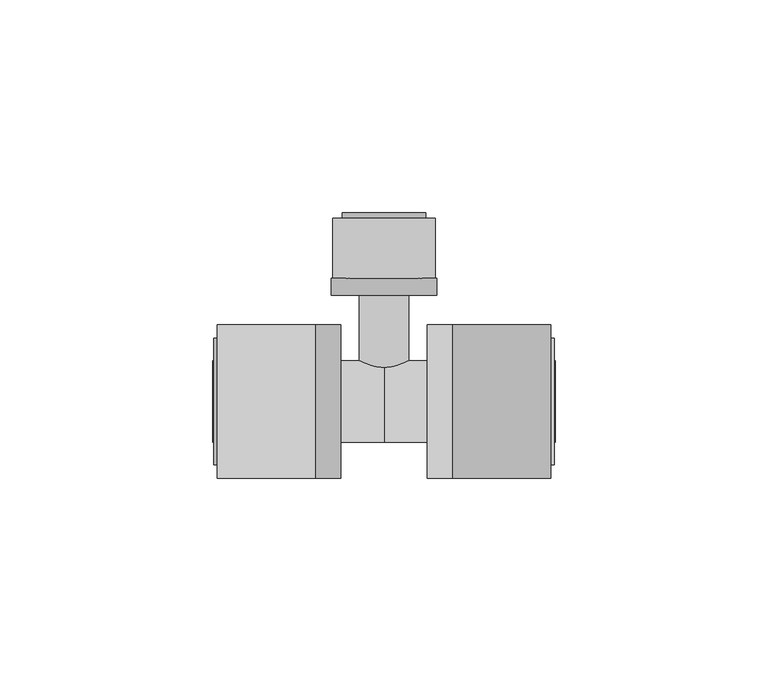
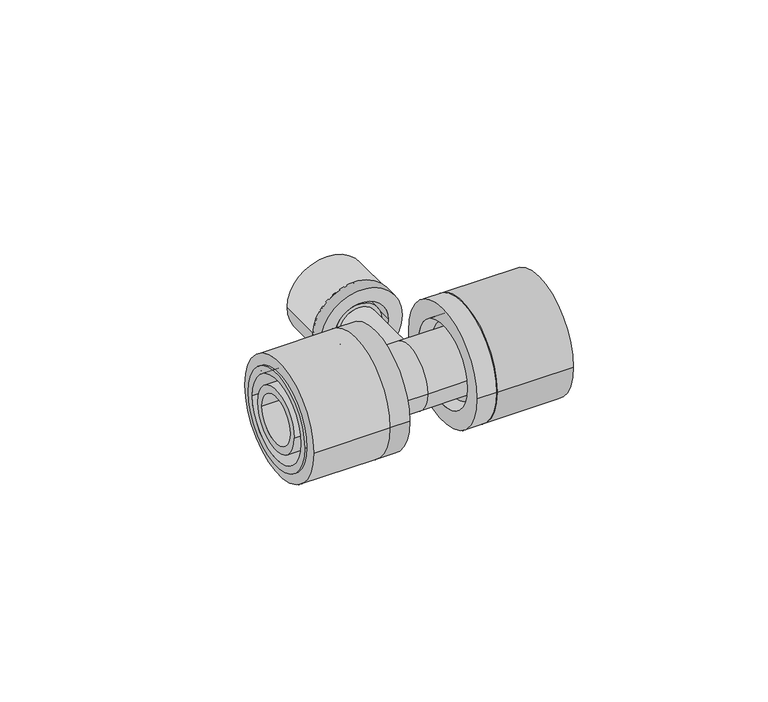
"""IFC4 building model written with IfcOpenShell, lengths in millimetres: pipe fitting geometry, FASTLOC_T-piece_LX : FSL T-Piece LX CZ."""

from ifc_helpers import new_model, si_unit, point, frame, origin, origin_2d, place, context, project, spatial, polyline, circle_curve, trimmed, segment, composite_curve, outline, extrude, source, transform, mapped, element, save
from ifc_brep_helpers import plane_surface, cylinder_surface, revolved_surface, advanced_brep


def pipe_fitting_e97a97d3(model_context):
    return source(origin(), model_context, "Body", "SolidModel", [
        extrude(outline(composite_curve([segment(trimmed(circle_curve(origin_2d(), 18.0), [point((-18.0, 0.0))], [point((18.0, 0.0))], False, "CARTESIAN"), True, "CONTINUOUS"), segment(trimmed(circle_curve(origin_2d(), 18.0), [point((18.0, 0.0))], [point((-18.0, 0.0))], False, "CARTESIAN"), True, "CONTINUOUS")], self_intersect=False), holes=[composite_curve([segment(trimmed(circle_curve(origin_2d(), 13.5), [point((-13.5, 0.0))], [point((13.5, 0.0))], True, "CARTESIAN"), True, "CONTINUOUS"), segment(trimmed(circle_curve(origin_2d(), 13.5), [point((13.5, 0.0))], [point((-13.5, 0.0))], True, "CARTESIAN"), True, "CONTINUOUS")], self_intersect=False)]), frame((16.2, 0.0, 0.0), z_axis=(1.0, 0.0, 0.0), x_axis=(0.0, 1.0, 0.0)), (0.0, 0.0, 1.0), 23.0),
        advanced_brep(
        [(16.2, 18.0, 0.0), (16.2, -18.0, 0.0), (10.2, -18.0, 0.0), (10.2, 18.0, 0.0), (40.0, 14.85, 0.0), (40.0, -14.85, 0.0), (16.2, -14.85, 0.0), (16.2, 14.85, 0.0), (10.2, 12.65, 0.0), (10.2, -12.65, 0.0), (40.0, -12.65, 0.0), (40.0, 12.65, 0.0)],
        [
            (0, 1, circle_curve(frame((16.2, 0.0, 0.0), z_axis=(-1.0, 0.0, 0.0), x_axis=(0.0, -1.0, 0.0)), 18.0)),
            (1, 2),
            (2, 3, circle_curve(frame((10.2, 0.0, 0.0), z_axis=(1.0, 0.0, 0.0), x_axis=(0.0, -1.0, 0.0)), 18.0)),
            (3, 0),
            (4, 5, circle_curve(frame((40.0, 0.0, 0.0), z_axis=(-1.0, 0.0, 0.0), x_axis=(0.0, -1.0, 0.0)), 14.85)),
            (5, 6),
            (6, 7, circle_curve(frame((16.2, 0.0, 0.0), z_axis=(1.0, 0.0, 0.0), x_axis=(0.0, -1.0, 0.0)), 14.85)),
            (7, 4),
            (8, 9, circle_curve(frame((10.2, 0.0, 0.0), z_axis=(-1.0, 0.0, 0.0), x_axis=(0.0, -1.0, 0.0)), 12.65)),
            (9, 10),
            (10, 11, circle_curve(frame((40.0, 0.0, 0.0), z_axis=(1.0, 0.0, 0.0), x_axis=(0.0, -1.0, 0.0)), 12.65)),
            (11, 8),
            (1, 0, circle_curve(frame((16.2, 0.0, 0.0), z_axis=(-1.0, 0.0, 0.0), x_axis=(0.0, 1.0, 0.0)), 18.0)),
            (3, 2, circle_curve(frame((10.2, 0.0, 0.0), z_axis=(1.0, 0.0, 0.0), x_axis=(0.0, 1.0, 0.0)), 18.0)),
            (6, 7, circle_curve(frame((16.2, 0.0, 0.0), z_axis=(-1.0, 0.0, 0.0), x_axis=(0.0, 1.0, 0.0)), 14.85)),
            (5, 4, circle_curve(frame((40.0, 0.0, 0.0), z_axis=(-1.0, 0.0, 0.0), x_axis=(0.0, 1.0, 0.0)), 14.85)),
            (10, 11, circle_curve(frame((40.0, 0.0, 0.0), z_axis=(-1.0, 0.0, 0.0), x_axis=(0.0, 1.0, 0.0)), 12.65)),
            (9, 8, circle_curve(frame((10.2, 0.0, 0.0), z_axis=(-1.0, 0.0, 0.0), x_axis=(0.0, 1.0, 0.0)), 12.65)),
        ],
        [
            cylinder_surface(frame((10.2, 0.0, 0.0), z_axis=(1.0, 0.0, 0.0), x_axis=(0.0, -1.0, 0.0)), 18.0),
            cylinder_surface(frame((10.2, 0.0, 0.0), z_axis=(1.0, 0.0, 0.0), x_axis=(0.0, -1.0, 0.0)), 14.85),
            revolved_surface(polyline([(40.0, -12.65, 0.0), (10.2, -12.65, 0.0)]), (10.2, 0.0, 0.0), (1.0, 0.0, 0.0)),
            cylinder_surface(frame((10.2, 0.0, 0.0), z_axis=(1.0, 0.0, 0.0), x_axis=(0.0, 1.0, 0.0)), 18.0),
            plane_surface(frame((16.2, 0.0, 0.0), z_axis=(1.0, 0.0, 0.0), x_axis=(0.0, 1.0, 0.0))),
            cylinder_surface(frame((10.2, 0.0, 0.0), z_axis=(1.0, 0.0, 0.0), x_axis=(0.0, 1.0, 0.0)), 14.85),
            plane_surface(frame((40.0, 0.0, 0.0), z_axis=(1.0, 0.0, 0.0), x_axis=(0.0, 1.0, 0.0))),
            revolved_surface(polyline([(40.0, 12.65, 0.0), (10.2, 12.65, 0.0)]), (10.2, 0.0, 0.0), (1.0, 0.0, 0.0)),
            plane_surface(frame((10.2, 0.0, 0.0), z_axis=(-1.0, 0.0, 0.0), x_axis=(0.0, 1.0, 0.0))),
        ],
        [
            (0, [[1, 2, 3, 4]]),
            (1, [[5, 6, 7, 8]]),
            (2, [[9, 10, 11, 12]]),
            (3, [[13, -4, 14, -2]]),
            (4, [[-13, -1], [15, -7]]),
            (5, [[16, -8, -15, -6]]),
            (6, [[-16, -5], [17, -11]]),
            (7, [[18, -12, -17, -10]]),
            (8, [[-14, -3], [-18, -9]]),
        ],
    ),
        extrude(outline(composite_curve([segment(trimmed(circle_curve(origin_2d(), 18.0), [point((18.0, 0.0))], [point((-18.0, 0.0))], False, "CARTESIAN"), True, "CONTINUOUS"), segment(trimmed(circle_curve(origin_2d(), 18.0), [point((-18.0, 0.0))], [point((18.0, 0.0))], False, "CARTESIAN"), True, "CONTINUOUS")], self_intersect=False), holes=[composite_curve([segment(trimmed(circle_curve(origin_2d(), 13.5), [point((13.5, 0.0))], [point((-13.5, 0.0))], True, "CARTESIAN"), True, "CONTINUOUS"), segment(trimmed(circle_curve(origin_2d(), 13.5), [point((-13.5, 0.0))], [point((13.5, 0.0))], True, "CARTESIAN"), True, "CONTINUOUS")], self_intersect=False)]), frame((-39.2, 0.0, 0.0), z_axis=(1.0, 0.0, 0.0), x_axis=(0.0, 1.0, 0.0)), (0.0, 0.0, 1.0), 23.0),
        advanced_brep(
        [(-16.2, -18.0, 0.0), (-16.2, 18.0, 0.0), (-10.2, 18.0, 0.0), (-10.2, -18.0, 0.0), (-40.0, -14.85, 0.0), (-40.0, 14.85, 0.0), (-16.2, 14.85, 0.0), (-16.2, -14.85, 0.0), (-10.2, -12.65, 0.0), (-10.2, 12.65, 0.0), (-40.0, 12.65, 0.0), (-40.0, -12.65, 0.0)],
        [
            (0, 1, circle_curve(frame((-16.2, 0.0, 0.0), z_axis=(1.0, 0.0, 0.0), x_axis=(0.0, 1.0, 0.0)), 18.0)),
            (1, 2),
            (2, 3, circle_curve(frame((-10.2, 0.0, 0.0), z_axis=(-1.0, 0.0, 0.0), x_axis=(0.0, 1.0, 0.0)), 18.0)),
            (3, 0),
            (4, 5, circle_curve(frame((-40.0, 0.0, 0.0), z_axis=(1.0, 0.0, 0.0), x_axis=(0.0, 1.0, 0.0)), 14.85)),
            (5, 6),
            (6, 7, circle_curve(frame((-16.2, 0.0, 0.0), z_axis=(-1.0, 0.0, 0.0), x_axis=(0.0, 1.0, 0.0)), 14.85)),
            (7, 4),
            (8, 9, circle_curve(frame((-10.2, 0.0, 0.0), z_axis=(1.0, 0.0, 0.0), x_axis=(0.0, 1.0, 0.0)), 12.65)),
            (9, 10),
            (10, 11, circle_curve(frame((-40.0, 0.0, 0.0), z_axis=(-1.0, 0.0, 0.0), x_axis=(0.0, 1.0, 0.0)), 12.65)),
            (11, 8),
            (1, 0, circle_curve(frame((-16.2, 0.0, 0.0), z_axis=(1.0, 0.0, 0.0), x_axis=(0.0, -1.0, 0.0)), 18.0)),
            (3, 2, circle_curve(frame((-10.2, 0.0, 0.0), z_axis=(-1.0, 0.0, 0.0), x_axis=(0.0, -1.0, 0.0)), 18.0)),
            (6, 7, circle_curve(frame((-16.2, 0.0, 0.0), z_axis=(1.0, 0.0, 0.0), x_axis=(0.0, -1.0, 0.0)), 14.85)),
            (5, 4, circle_curve(frame((-40.0, 0.0, 0.0), z_axis=(1.0, 0.0, 0.0), x_axis=(0.0, -1.0, 0.0)), 14.85)),
            (10, 11, circle_curve(frame((-40.0, 0.0, 0.0), z_axis=(1.0, 0.0, 0.0), x_axis=(0.0, -1.0, 0.0)), 12.65)),
            (9, 8, circle_curve(frame((-10.2, 0.0, 0.0), z_axis=(1.0, 0.0, 0.0), x_axis=(0.0, -1.0, 0.0)), 12.65)),
        ],
        [
            cylinder_surface(frame((-10.2, 0.0, 0.0), z_axis=(-1.0, 0.0, 0.0), x_axis=(0.0, 1.0, 0.0)), 18.0),
            cylinder_surface(frame((-10.2, 0.0, 0.0), z_axis=(-1.0, 0.0, 0.0), x_axis=(0.0, 1.0, 0.0)), 14.85),
            revolved_surface(polyline([(-40.0, 12.65, 0.0), (-10.2, 12.65, 0.0)]), (-10.2, 0.0, 0.0), (-1.0, 0.0, 0.0)),
            cylinder_surface(frame((-10.2, 0.0, 0.0), z_axis=(-1.0, 0.0, 0.0), x_axis=(0.0, -1.0, 0.0)), 18.0),
            plane_surface(frame((-16.2, 0.0, 0.0), z_axis=(-1.0, 0.0, 0.0), x_axis=(0.0, -1.0, 0.0))),
            cylinder_surface(frame((-10.2, 0.0, 0.0), z_axis=(-1.0, 0.0, 0.0), x_axis=(0.0, -1.0, 0.0)), 14.85),
            plane_surface(frame((-40.0, 0.0, 0.0), z_axis=(-1.0, 0.0, 0.0), x_axis=(0.0, -1.0, 0.0))),
            revolved_surface(polyline([(-40.0, -12.65, 0.0), (-10.2, -12.65, 0.0)]), (-10.2, 0.0, 0.0), (-1.0, 0.0, 0.0)),
            plane_surface(frame((-10.2, 0.0, 0.0), z_axis=(1.0, 0.0, 0.0), x_axis=(0.0, -1.0, 0.0))),
        ],
        [
            (0, [[1, 2, 3, 4]]),
            (1, [[5, 6, 7, 8]]),
            (2, [[9, 10, 11, 12]]),
            (3, [[13, -4, 14, -2]]),
            (4, [[-13, -1], [15, -7]]),
            (5, [[16, -8, -15, -6]]),
            (6, [[-16, -5], [17, -11]]),
            (7, [[18, -12, -17, -10]]),
            (8, [[-14, -3], [-18, -9]]),
        ],
    ),
        extrude(outline(composite_curve([segment(trimmed(circle_curve(origin_2d(), 12.0), [point((0.0, 12.0))], [point((0.0, -12.0))], False, "CARTESIAN"), True, "CONTINUOUS"), segment(trimmed(circle_curve(origin_2d(), 12.0), [point((0.0, -12.0))], [point((0.0, 12.0))], False, "CARTESIAN"), True, "CONTINUOUS")], self_intersect=False), holes=[composite_curve([segment(trimmed(circle_curve(origin_2d(), 8.85), [point((0.0, 8.85))], [point((0.0, -8.85))], True, "CARTESIAN"), True, "CONTINUOUS"), segment(trimmed(circle_curve(origin_2d(), 8.85), [point((0.0, -8.85))], [point((0.0, 8.85))], True, "CARTESIAN"), True, "CONTINUOUS")], self_intersect=False)]), frame((0.0, 29.0, 0.0), z_axis=(0.0, 1.0, 0.0), x_axis=(0.0, 0.0, 1.0)), (0.0, 0.0, 1.0), 14.0),
        advanced_brep(
        [(-12.35, 29.0, 0.0), (12.35, 29.0, 0.0), (12.35, 25.0, 0.0), (-12.35, 25.0, 0.0), (-9.85, 44.3, 0.0), (9.85, 44.3, 0.0), (9.85, 29.0, 0.0), (-9.85, 29.0, 0.0), (-8.15, 25.0, 0.0), (8.15, 25.0, 0.0), (8.15, 44.3, 0.0), (-8.15, 44.3, 0.0)],
        [
            (0, 1, circle_curve(frame((0.0, 29.0, 0.0), z_axis=(0.0, -1.0, 0.0), x_axis=(1.0, 0.0, 0.0)), 12.35)),
            (1, 2),
            (2, 3, circle_curve(frame((0.0, 25.0, 0.0), z_axis=(0.0, 1.0, 0.0), x_axis=(1.0, 0.0, 0.0)), 12.35)),
            (3, 0),
            (4, 5, circle_curve(frame((0.0, 44.3, 0.0), z_axis=(0.0, -1.0, 0.0), x_axis=(1.0, 0.0, 0.0)), 9.85)),
            (5, 6),
            (6, 7, circle_curve(frame((0.0, 29.0, 0.0), z_axis=(0.0, 1.0, 0.0), x_axis=(1.0, 0.0, 0.0)), 9.85)),
            (7, 4),
            (8, 9, circle_curve(frame((0.0, 25.0, 0.0), z_axis=(0.0, -1.0, 0.0), x_axis=(1.0, 0.0, 0.0)), 8.15)),
            (9, 10),
            (10, 11, circle_curve(frame((0.0, 44.3, 0.0), z_axis=(0.0, 1.0, 0.0), x_axis=(1.0, 0.0, 0.0)), 8.15)),
            (11, 8),
            (1, 0, circle_curve(frame((0.0, 29.0, 0.0), z_axis=(0.0, -1.0, 0.0), x_axis=(-1.0, 0.0, 0.0)), 12.35)),
            (3, 2, circle_curve(frame((0.0, 25.0, 0.0), z_axis=(0.0, 1.0, 0.0), x_axis=(-1.0, 0.0, 0.0)), 12.35)),
            (6, 7, circle_curve(frame((0.0, 29.0, 0.0), z_axis=(0.0, -1.0, 0.0), x_axis=(-1.0, 0.0, 0.0)), 9.85)),
            (5, 4, circle_curve(frame((0.0, 44.3, 0.0), z_axis=(0.0, -1.0, 0.0), x_axis=(-1.0, 0.0, 0.0)), 9.85)),
            (10, 11, circle_curve(frame((0.0, 44.3, 0.0), z_axis=(0.0, -1.0, 0.0), x_axis=(-1.0, 0.0, 0.0)), 8.15)),
            (9, 8, circle_curve(frame((0.0, 25.0, 0.0), z_axis=(0.0, -1.0, 0.0), x_axis=(-1.0, 0.0, 0.0)), 8.15)),
        ],
        [
            cylinder_surface(frame((0.0, 25.0, 0.0), z_axis=(0.0, 1.0, 0.0), x_axis=(1.0, 0.0, 0.0)), 12.35),
            cylinder_surface(frame((0.0, 25.0, 0.0), z_axis=(0.0, 1.0, 0.0), x_axis=(1.0, 0.0, 0.0)), 9.85),
            revolved_surface(polyline([(8.15, 44.3, 0.0), (8.15, 25.0, 0.0)]), (0.0, 25.0, 0.0), (0.0, 1.0, 0.0)),
            cylinder_surface(frame((0.0, 25.0, 0.0), z_axis=(0.0, 1.0, 0.0), x_axis=(-1.0, 0.0, 0.0)), 12.35),
            plane_surface(frame((0.0, 29.0, 0.0), z_axis=(0.0, 1.0, 0.0), x_axis=(-1.0, 0.0, 0.0))),
            cylinder_surface(frame((0.0, 25.0, 0.0), z_axis=(0.0, 1.0, 0.0), x_axis=(-1.0, 0.0, 0.0)), 9.85),
            plane_surface(frame((0.0, 44.3, 0.0), z_axis=(0.0, 1.0, 0.0), x_axis=(-1.0, 0.0, 0.0))),
            revolved_surface(polyline([(-8.15, 44.3, 0.0), (-8.15, 25.0, 0.0)]), (0.0, 25.0, 0.0), (0.0, 1.0, 0.0)),
            plane_surface(frame((0.0, 25.0, 0.0), z_axis=(0.0, -1.0, 0.0), x_axis=(-1.0, 0.0, 0.0))),
        ],
        [
            (0, [[1, 2, 3, 4]]),
            (1, [[5, 6, 7, 8]]),
            (2, [[9, 10, 11, 12]]),
            (3, [[13, -4, 14, -2]]),
            (4, [[-13, -1], [15, -7]]),
            (5, [[16, -8, -15, -6]]),
            (6, [[-16, -5], [17, -11]]),
            (7, [[18, -12, -17, -10]]),
            (8, [[-14, -3], [-18, -9]]),
        ],
    ),
        advanced_brep(
        [(0.0, 9.6, 0.0), (0.0, -9.6, 0.0), (-13.4, -9.6, 0.0), (-13.4, 9.6, 0.0), (13.4, 9.6, 0.0), (13.4, -9.6, 0.0), (16.2, 11.1, 0.0), (16.2, -11.1, 0.0), (13.4, -11.1, 0.0), (13.4, 11.1, 0.0), (40.2, 9.6, 0.0), (40.2, -9.6, 0.0), (16.2, -9.6, 0.0), (16.2, 9.6, 0.0), (-16.2, 9.6, 0.0), (-16.2, -9.6, 0.0), (-40.2, -9.6, 0.0), (-40.2, 9.6, 0.0), (-13.4, 11.1, 0.0), (-13.4, -11.1, 0.0), (-16.2, -11.1, 0.0), (-16.2, 11.1, 0.0), (40.2, -7.35, 0.0), (40.2, 7.35, 0.0), (-40.2, 7.35, 0.0), (-40.2, -7.35, 0.0), (0.0, 7.35, 0.0), (0.0, -7.35, 0.0)],
        [
            (0, 1, circle_curve(frame((0.0, 0.0, 0.0), z_axis=(-1.0, 0.0, 0.0), x_axis=(0.0, -1.0, 0.0)), 9.6)),
            (1, 2),
            (2, 3, circle_curve(frame((-13.4, 0.0, 0.0), z_axis=(1.0, 0.0, 0.0), x_axis=(0.0, -1.0, 0.0)), 9.6)),
            (3, 0),
            (4, 5, circle_curve(frame((13.4, 0.0, 0.0), z_axis=(-1.0, 0.0, 0.0), x_axis=(0.0, -1.0, 0.0)), 9.6)),
            (5, 1),
            (0, 4),
            (6, 7, circle_curve(frame((16.2, 0.0, 0.0), z_axis=(-1.0, 0.0, 0.0), x_axis=(0.0, -1.0, 0.0)), 11.1)),
            (7, 8),
            (8, 9, circle_curve(frame((13.4, 0.0, 0.0), z_axis=(1.0, 0.0, 0.0), x_axis=(0.0, -1.0, 0.0)), 11.1)),
            (9, 6),
            (10, 11, circle_curve(frame((40.2, 0.0, 0.0), z_axis=(-1.0, 0.0, 0.0), x_axis=(0.0, -1.0, 0.0)), 9.6)),
            (11, 12),
            (12, 13, circle_curve(frame((16.2, 0.0, 0.0), z_axis=(1.0, 0.0, 0.0), x_axis=(0.0, -1.0, 0.0)), 9.6)),
            (13, 10),
            (14, 15, circle_curve(frame((-16.2, 0.0, 0.0), z_axis=(-1.0, 0.0, 0.0), x_axis=(0.0, -1.0, 0.0)), 9.6)),
            (15, 16),
            (16, 17, circle_curve(frame((-40.2, 0.0, 0.0), z_axis=(1.0, 0.0, 0.0), x_axis=(0.0, -1.0, 0.0)), 9.6)),
            (17, 14),
            (18, 19, circle_curve(frame((-13.4, 0.0, 0.0), z_axis=(-1.0, 0.0, 0.0), x_axis=(0.0, -1.0, 0.0)), 11.1)),
            (19, 20),
            (20, 21, circle_curve(frame((-16.2, 0.0, 0.0), z_axis=(1.0, 0.0, 0.0), x_axis=(0.0, -1.0, 0.0)), 11.1)),
            (21, 18),
            (18, 19, circle_curve(frame((-13.4, 0.0, 0.0), z_axis=(1.0, 0.0, 0.0), x_axis=(0.0, 1.0, 0.0)), 11.1)),
            (2, 3, circle_curve(frame((-13.4, 0.0, 0.0), z_axis=(-1.0, 0.0, 0.0), x_axis=(0.0, 1.0, 0.0)), 9.6)),
            (1, 0, circle_curve(frame((0.0, 0.0, 0.0), z_axis=(-1.0, 0.0, 0.0), x_axis=(0.0, 1.0, 0.0)), 9.6)),
            (5, 4, circle_curve(frame((13.4, 0.0, 0.0), z_axis=(-1.0, 0.0, 0.0), x_axis=(0.0, 1.0, 0.0)), 9.6)),
            (8, 9, circle_curve(frame((13.4, 0.0, 0.0), z_axis=(-1.0, 0.0, 0.0), x_axis=(0.0, 1.0, 0.0)), 11.1)),
            (7, 6, circle_curve(frame((16.2, 0.0, 0.0), z_axis=(-1.0, 0.0, 0.0), x_axis=(0.0, 1.0, 0.0)), 11.1)),
            (12, 13, circle_curve(frame((16.2, 0.0, 0.0), z_axis=(-1.0, 0.0, 0.0), x_axis=(0.0, 1.0, 0.0)), 9.6)),
            (11, 10, circle_curve(frame((40.2, 0.0, 0.0), z_axis=(-1.0, 0.0, 0.0), x_axis=(0.0, 1.0, 0.0)), 9.6)),
            (22, 23, circle_curve(frame((40.2, 0.0, 0.0), z_axis=(-1.0, 0.0, 0.0), x_axis=(0.0, 1.0, 0.0)), 7.35)),
            (23, 22, circle_curve(frame((40.2, 0.0, 0.0), z_axis=(-1.0, 0.0, 0.0), x_axis=(0.0, -1.0, 0.0)), 7.35)),
            (16, 17, circle_curve(frame((-40.2, 0.0, 0.0), z_axis=(-1.0, 0.0, 0.0), x_axis=(0.0, 1.0, 0.0)), 9.6)),
            (24, 25, circle_curve(frame((-40.2, 0.0, 0.0), z_axis=(1.0, 0.0, 0.0), x_axis=(0.0, 1.0, 0.0)), 7.35)),
            (25, 24, circle_curve(frame((-40.2, 0.0, 0.0), z_axis=(1.0, 0.0, 0.0), x_axis=(0.0, -1.0, 0.0)), 7.35)),
            (15, 14, circle_curve(frame((-16.2, 0.0, 0.0), z_axis=(-1.0, 0.0, 0.0), x_axis=(0.0, 1.0, 0.0)), 9.6)),
            (20, 21, circle_curve(frame((-16.2, 0.0, 0.0), z_axis=(-1.0, 0.0, 0.0), x_axis=(0.0, 1.0, 0.0)), 11.1)),
            (26, 27, circle_curve(frame((0.0, 0.0, 0.0), z_axis=(-1.0, 0.0, 0.0), x_axis=(0.0, -1.0, 0.0)), 7.35)),
            (27, 22),
            (23, 26),
            (25, 27),
            (26, 24),
            (27, 26, circle_curve(frame((0.0, 0.0, 0.0), z_axis=(-1.0, 0.0, 0.0), x_axis=(0.0, 1.0, 0.0)), 7.35)),
        ],
        [
            cylinder_surface(frame((0.0, 0.0, 0.0), z_axis=(1.0, 0.0, 0.0), x_axis=(0.0, -1.0, 0.0)), 9.6),
            cylinder_surface(frame((0.0, 0.0, 0.0), z_axis=(1.0, 0.0, 0.0), x_axis=(0.0, -1.0, 0.0)), 11.1),
            plane_surface(frame((-13.4, 0.0, 0.0), z_axis=(1.0, 0.0, 0.0), x_axis=(0.0, 1.0, 0.0))),
            cylinder_surface(frame((0.0, 0.0, 0.0), z_axis=(1.0, 0.0, 0.0), x_axis=(0.0, 1.0, 0.0)), 9.6),
            plane_surface(frame((13.4, 0.0, 0.0), z_axis=(-1.0, 0.0, 0.0), x_axis=(0.0, 1.0, 0.0))),
            cylinder_surface(frame((0.0, 0.0, 0.0), z_axis=(1.0, 0.0, 0.0), x_axis=(0.0, 1.0, 0.0)), 11.1),
            plane_surface(frame((16.2, 0.0, 0.0), z_axis=(1.0, 0.0, 0.0), x_axis=(0.0, 1.0, 0.0))),
            plane_surface(frame((40.2, 0.0, 0.0), z_axis=(1.0, 0.0, 0.0), x_axis=(0.0, 1.0, 0.0))),
            plane_surface(frame((-40.2, 0.0, 0.0), z_axis=(-1.0, 0.0, 0.0), x_axis=(0.0, 1.0, 0.0))),
            plane_surface(frame((-16.2, 0.0, 0.0), z_axis=(-1.0, 0.0, 0.0), x_axis=(0.0, 1.0, 0.0))),
            revolved_surface(polyline([(40.2, -7.35, 0.0), (0.0, -7.35, 0.0)]), (0.0, 0.0, 0.0), (1.0, 0.0, 0.0)),
            revolved_surface(polyline([(0.0, -7.35, 0.0), (-40.2, -7.35, 0.0)]), (0.0, 0.0, 0.0), (1.0, 0.0, 0.0)),
            revolved_surface(polyline([(40.2, 7.35, 0.0), (0.0, 7.35, 0.0)]), (0.0, 0.0, 0.0), (1.0, 0.0, 0.0)),
            revolved_surface(polyline([(0.0, 7.35, 0.0), (-40.2, 7.35, 0.0)]), (0.0, 0.0, 0.0), (1.0, 0.0, 0.0)),
        ],
        [
            (0, [[1, 2, 3, 4]]),
            (0, [[5, 6, -1, 7]]),
            (1, [[8, 9, 10, 11]]),
            (0, [[12, 13, 14, 15]]),
            (0, [[16, 17, 18, 19]]),
            (1, [[20, 21, 22, 23]]),
            (2, [[24, -20], [25, -3]]),
            (3, [[26, -4, -25, -2]]),
            (3, [[27, -7, -26, -6]]),
            (4, [[28, -10], [-27, -5]]),
            (5, [[29, -11, -28, -9]]),
            (6, [[-29, -8], [30, -14]]),
            (3, [[31, -15, -30, -13]]),
            (7, [[-31, -12], [32, 33]]),
            (8, [[34, -18], [35, 36]]),
            (3, [[37, -19, -34, -17]]),
            (9, [[38, -22], [-37, -16]]),
            (5, [[-24, -23, -38, -21]]),
            (10, [[39, 40, -33, 41]]),
            (11, [[-36, 42, -39, 43]]),
            (12, [[44, -41, -32, -40]]),
            (13, [[-35, -43, -44, -42]]),
        ],
    ),
        advanced_brep(
        [(3.95, 44.0, 0.0), (-3.95, 44.0, 0.0), (-3.95, 0.0, 0.0), (3.95, 0.0, 0.0), (5.8, 0.0, 0.0), (-5.8, 0.0, 0.0), (-5.8, 26.29, 0.0), (5.8, 26.29, 0.0), (6.9, 26.29, 0.0), (-6.9, 26.29, 0.0), (-6.9, 29.0, 0.0), (6.9, 29.0, 0.0), (5.8, 29.0, 0.0), (-5.8, 29.0, 0.0), (-5.8, 44.0, 0.0), (5.8, 44.0, 0.0)],
        [
            (0, 1, circle_curve(frame((0.0, 44.0, 0.0), z_axis=(0.0, 1.0, 0.0), x_axis=(-1.0, 0.0, 0.0)), 3.95)),
            (1, 2),
            (2, 3, circle_curve(frame((0.0, 0.0, 0.0), z_axis=(0.0, -1.0, 0.0), x_axis=(-1.0, 0.0, 0.0)), 3.95)),
            (3, 0),
            (4, 5, circle_curve(frame((0.0, 0.0, 0.0), z_axis=(0.0, 1.0, 0.0), x_axis=(-1.0, 0.0, 0.0)), 5.8)),
            (5, 6),
            (6, 7, circle_curve(frame((0.0, 26.29, 0.0), z_axis=(0.0, -1.0, 0.0), x_axis=(-1.0, 0.0, 0.0)), 5.8)),
            (7, 4),
            (8, 9, circle_curve(frame((0.0, 26.29, 0.0), z_axis=(0.0, 1.0, 0.0), x_axis=(-1.0, 0.0, 0.0)), 6.9)),
            (9, 10),
            (10, 11, circle_curve(frame((0.0, 29.0, 0.0), z_axis=(0.0, -1.0, 0.0), x_axis=(-1.0, 0.0, 0.0)), 6.9)),
            (11, 8),
            (12, 13, circle_curve(frame((0.0, 29.0, 0.0), z_axis=(0.0, 1.0, 0.0), x_axis=(-1.0, 0.0, 0.0)), 5.8)),
            (13, 14),
            (14, 15, circle_curve(frame((0.0, 44.0, 0.0), z_axis=(0.0, -1.0, 0.0), x_axis=(-1.0, 0.0, 0.0)), 5.8)),
            (15, 12),
            (1, 0, circle_curve(frame((0.0, 44.0, 0.0), z_axis=(0.0, 1.0, 0.0), x_axis=(1.0, 0.0, 0.0)), 3.95)),
            (3, 2, circle_curve(frame((0.0, 0.0, 0.0), z_axis=(0.0, -1.0, 0.0), x_axis=(1.0, 0.0, 0.0)), 3.95)),
            (4, 5, circle_curve(frame((0.0, 0.0, 0.0), z_axis=(0.0, -1.0, 0.0), x_axis=(1.0, 0.0, 0.0)), 5.8)),
            (7, 6, circle_curve(frame((0.0, 26.29, 0.0), z_axis=(0.0, -1.0, 0.0), x_axis=(1.0, 0.0, 0.0)), 5.8)),
            (8, 9, circle_curve(frame((0.0, 26.29, 0.0), z_axis=(0.0, -1.0, 0.0), x_axis=(1.0, 0.0, 0.0)), 6.9)),
            (11, 10, circle_curve(frame((0.0, 29.0, 0.0), z_axis=(0.0, -1.0, 0.0), x_axis=(1.0, 0.0, 0.0)), 6.9)),
            (12, 13, circle_curve(frame((0.0, 29.0, 0.0), z_axis=(0.0, -1.0, 0.0), x_axis=(1.0, 0.0, 0.0)), 5.8)),
            (15, 14, circle_curve(frame((0.0, 44.0, 0.0), z_axis=(0.0, -1.0, 0.0), x_axis=(1.0, 0.0, 0.0)), 5.8)),
        ],
        [
            revolved_surface(polyline([(-3.95, 0.0, 0.0), (-3.95, 44.0, 0.0)]), (0.0, 0.0, 0.0), (0.0, -1.0, 0.0)),
            cylinder_surface(frame((0.0, 0.0, 0.0), z_axis=(0.0, -1.0, 0.0), x_axis=(-1.0, 0.0, 0.0)), 5.8),
            cylinder_surface(frame((0.0, 0.0, 0.0), z_axis=(0.0, -1.0, 0.0), x_axis=(-1.0, 0.0, 0.0)), 6.9),
            revolved_surface(polyline([(3.95, 0.0, 0.0), (3.95, 44.0, 0.0)]), (0.0, 0.0, 0.0), (0.0, -1.0, 0.0)),
            plane_surface(frame((0.0, 0.0, 0.0), z_axis=(0.0, -1.0, 0.0), x_axis=(1.0, 0.0, 0.0))),
            cylinder_surface(frame((0.0, 0.0, 0.0), z_axis=(0.0, -1.0, 0.0), x_axis=(1.0, 0.0, 0.0)), 5.8),
            plane_surface(frame((0.0, 26.29, 0.0), z_axis=(0.0, -1.0, 0.0), x_axis=(1.0, 0.0, 0.0))),
            cylinder_surface(frame((0.0, 0.0, 0.0), z_axis=(0.0, -1.0, 0.0), x_axis=(1.0, 0.0, 0.0)), 6.9),
            plane_surface(frame((0.0, 29.0, 0.0), z_axis=(0.0, 1.0, 0.0), x_axis=(1.0, 0.0, 0.0))),
            plane_surface(frame((0.0, 44.0, 0.0), z_axis=(0.0, 1.0, 0.0), x_axis=(1.0, 0.0, 0.0))),
        ],
        [
            (0, [[1, 2, 3, 4]]),
            (1, [[5, 6, 7, 8]]),
            (2, [[9, 10, 11, 12]]),
            (1, [[13, 14, 15, 16]]),
            (3, [[17, -4, 18, -2]]),
            (4, [[19, -5], [-18, -3]]),
            (5, [[-19, -8, 20, -6]]),
            (6, [[21, -9], [-20, -7]]),
            (7, [[-21, -12, 22, -10]]),
            (8, [[-22, -11], [23, -13]]),
            (5, [[-23, -16, 24, -14]]),
            (9, [[-24, -15], [-17, -1]]),
        ],
    ),
    ])


if __name__ == "__main__":
    model = new_model("IFC4")
    model_context = context("Model", 3, world=origin())
    ifc_project = project(units=[si_unit("LENGTHUNIT", "METRE", prefix="MILLI")], contexts=[model_context])
    site = spatial("IfcSite", under=ifc_project)
    building = spatial("IfcBuilding", under=site)
    placement = place(None, origin())
    pipe_fitting_shape = pipe_fitting_e97a97d3(model_context)
    element("IfcPipeFitting", 1, ObjectType="FASTLOC_T-piece_LX : FSL T-Piece LX CZ", at=placement, inside=building, context=model_context, shape_type="MappedRepresentation", body=[
        mapped(pipe_fitting_shape, transform((0.0, 0.0, 0.0), x_axis=(1.0, 0.0, 0.0), y_axis=(0.0, 1.0, 0.0), z_axis=(0.0, 0.0, 1.0))),
    ])
    save(model, "model.ifc")
